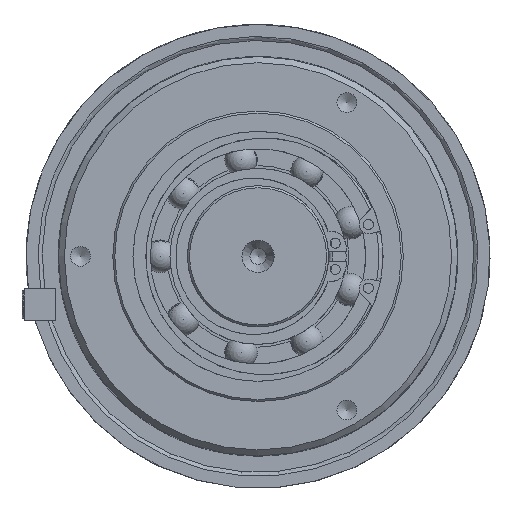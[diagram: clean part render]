
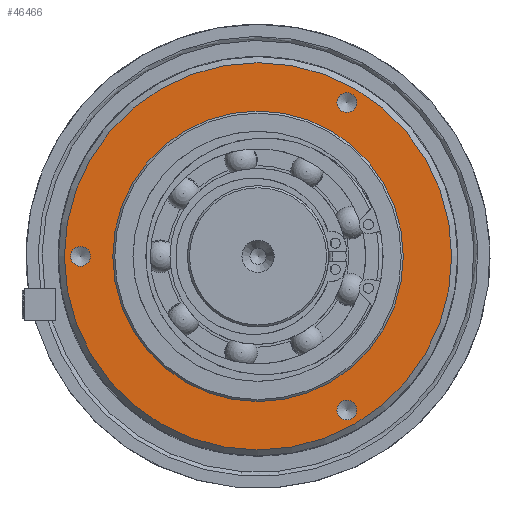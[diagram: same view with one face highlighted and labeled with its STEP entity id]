
A CAD part, left-side view. The second image highlights one B-rep face of the part: STEP entity #46466.
In plain terms, the highlighted planar face has unit normal (-1, 0, 0).
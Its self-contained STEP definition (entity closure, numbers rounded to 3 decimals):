
#8582=PLANE('',#49210);
#10488=FACE_BOUND('',#13394,.T.);
#10489=FACE_BOUND('',#13395,.T.);
#10490=FACE_BOUND('',#13396,.T.);
#10491=FACE_BOUND('',#13397,.T.);
#10759=FACE_OUTER_BOUND('',#13393,.T.);
#13393=EDGE_LOOP('',(#31305));
#13394=EDGE_LOOP('',(#31306));
#13395=EDGE_LOOP('',(#31307));
#13396=EDGE_LOOP('',(#31308));
#13397=EDGE_LOOP('',(#31309));
#16207=CIRCLE('',#49209,48.);
#16208=CIRCLE('',#49211,2.459);
#16209=CIRCLE('',#49212,2.459);
#16210=CIRCLE('',#49213,2.459);
#16211=CIRCLE('',#49214,36.);
#18349=VERTEX_POINT('',#73829);
#18350=VERTEX_POINT('',#73832);
#18351=VERTEX_POINT('',#73834);
#18352=VERTEX_POINT('',#73836);
#18353=VERTEX_POINT('',#73838);
#23528=EDGE_CURVE('',#18349,#18349,#16207,.T.);
#23529=EDGE_CURVE('',#18350,#18350,#16208,.T.);
#23530=EDGE_CURVE('',#18351,#18351,#16209,.T.);
#23531=EDGE_CURVE('',#18352,#18352,#16210,.T.);
#23532=EDGE_CURVE('',#18353,#18353,#16211,.T.);
#31305=ORIENTED_EDGE('',*,*,#23528,.F.);
#31306=ORIENTED_EDGE('',*,*,#23529,.T.);
#31307=ORIENTED_EDGE('',*,*,#23530,.T.);
#31308=ORIENTED_EDGE('',*,*,#23531,.T.);
#31309=ORIENTED_EDGE('',*,*,#23532,.T.);
#46466=ADVANCED_FACE('',(#10759,#10488,#10489,#10490,#10491),#8582,.T.);
#49209=AXIS2_PLACEMENT_3D('',#73830,#56837,#56838);
#49210=AXIS2_PLACEMENT_3D('',#73831,#56839,#56840);
#49211=AXIS2_PLACEMENT_3D('',#73833,#56841,#56842);
#49212=AXIS2_PLACEMENT_3D('',#73835,#56843,#56844);
#49213=AXIS2_PLACEMENT_3D('',#73837,#56845,#56846);
#49214=AXIS2_PLACEMENT_3D('',#73839,#56847,#56848);
#56837=DIRECTION('center_axis',(1.,0.,0.));
#56838=DIRECTION('ref_axis',(0.,1.,0.));
#56839=DIRECTION('center_axis',(-1.,0.,0.));
#56840=DIRECTION('ref_axis',(0.,0.,1.));
#56841=DIRECTION('center_axis',(1.,0.,0.));
#56842=DIRECTION('ref_axis',(0.,0.,1.));
#56843=DIRECTION('center_axis',(1.,0.,0.));
#56844=DIRECTION('ref_axis',(0.,0.,1.));
#56845=DIRECTION('center_axis',(1.,0.,0.));
#56846=DIRECTION('ref_axis',(0.,0.,1.));
#56847=DIRECTION('center_axis',(1.,0.,0.));
#56848=DIRECTION('ref_axis',(0.,1.,0.));
#73829=CARTESIAN_POINT('',(-27.5,48.,0.));
#73830=CARTESIAN_POINT('Origin',(-27.5,0.,0.));
#73831=CARTESIAN_POINT('Origin',(-27.5,42.,0.));
#73832=CARTESIAN_POINT('',(-27.5,-22.,40.564));
#73833=CARTESIAN_POINT('Origin',(-27.5,-22.,38.105));
#73834=CARTESIAN_POINT('',(-27.5,-22.,-35.647));
#73835=CARTESIAN_POINT('Origin',(-27.5,-22.,-38.105));
#73836=CARTESIAN_POINT('',(-27.5,44.,2.459));
#73837=CARTESIAN_POINT('Origin',(-27.5,44.,0.));
#73838=CARTESIAN_POINT('',(-27.5,36.,0.));
#73839=CARTESIAN_POINT('Origin',(-27.5,0.,0.));
